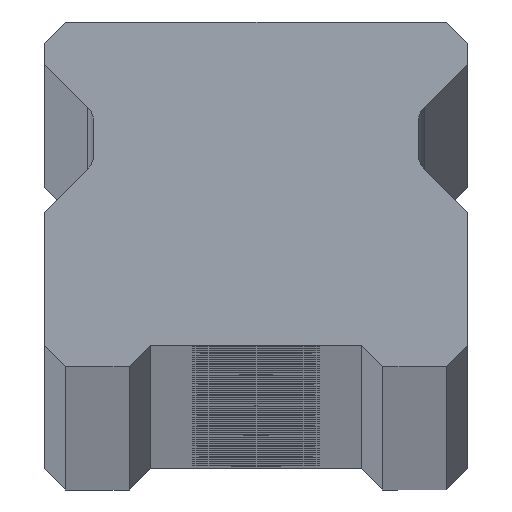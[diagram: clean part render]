
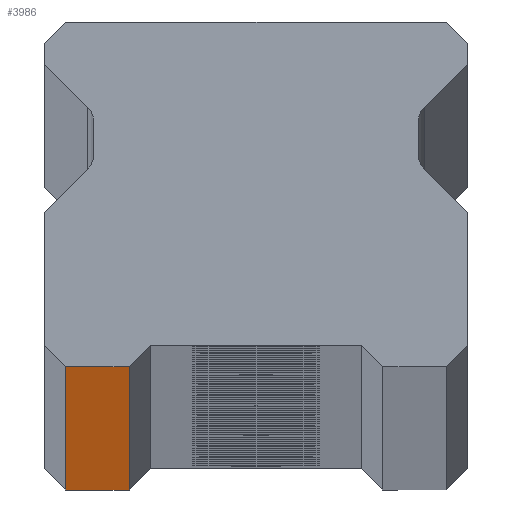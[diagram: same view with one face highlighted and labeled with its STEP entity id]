
A CAD part, top view. The second image highlights one B-rep face of the part: STEP entity #3986.
In plain terms, the highlighted planar face has unit normal (0, -1, 0).
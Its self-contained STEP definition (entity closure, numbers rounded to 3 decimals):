
#626 = CARTESIAN_POINT ( 'NONE',  ( -6., 0., -1670. ) ) ;
#696 = EDGE_CURVE ( 'NONE', #954, #2394, #7492, .T. ) ;
#954 = VERTEX_POINT ( 'NONE', #8758 ) ;
#956 = DIRECTION ( 'NONE',  ( 1., 0., 0. ) ) ;
#1045 = LINE ( 'NONE', #7256, #1956 ) ;
#1078 = PLANE ( 'NONE',  #8911 ) ;
#1226 = CARTESIAN_POINT ( 'NONE',  ( -9., 0., 1670. ) ) ;
#1250 = EDGE_LOOP ( 'NONE', ( #2447, #8393, #9165, #2674 ) ) ;
#1650 = LINE ( 'NONE', #9126, #9149 ) ;
#1956 = VECTOR ( 'NONE', #7926, 1000. ) ;
#2394 = VERTEX_POINT ( 'NONE', #5621 ) ;
#2447 = ORIENTED_EDGE ( 'NONE', *, *, #3106, .T. ) ;
#2674 = ORIENTED_EDGE ( 'NONE', *, *, #4540, .T. ) ;
#3106 = EDGE_CURVE ( 'NONE', #8395, #954, #1045, .T. ) ;
#3986 = ADVANCED_FACE ( 'NONE', ( #9296 ), #1078, .F. ) ;
#4020 = CARTESIAN_POINT ( 'NONE',  ( -9., 0., -1670. ) ) ;
#4065 = CARTESIAN_POINT ( 'NONE',  ( 10., 0., 1670. ) ) ;
#4296 = CARTESIAN_POINT ( 'NONE',  ( -9., 0., 1670. ) ) ;
#4540 = EDGE_CURVE ( 'NONE', #4793, #8395, #9512, .T. ) ;
#4790 = DIRECTION ( 'NONE',  ( 0., 1., 0. ) ) ;
#4793 = VERTEX_POINT ( 'NONE', #4296 ) ;
#5621 = CARTESIAN_POINT ( 'NONE',  ( -6., 0., 1670. ) ) ;
#6383 = DIRECTION ( 'NONE',  ( 0., 0., -1. ) ) ;
#6630 = EDGE_CURVE ( 'NONE', #4793, #2394, #1650, .T. ) ;
#7182 = DIRECTION ( 'NONE',  ( 0., 0., 1. ) ) ;
#7256 = CARTESIAN_POINT ( 'NONE',  ( 10., 0., -1670. ) ) ;
#7492 = LINE ( 'NONE', #626, #7616 ) ;
#7616 = VECTOR ( 'NONE', #7182, 1000. ) ;
#7926 = DIRECTION ( 'NONE',  ( 1., 0., 0. ) ) ;
#8393 = ORIENTED_EDGE ( 'NONE', *, *, #696, .T. ) ;
#8395 = VERTEX_POINT ( 'NONE', #4020 ) ;
#8443 = DIRECTION ( 'NONE',  ( -1., 0., 0. ) ) ;
#8758 = CARTESIAN_POINT ( 'NONE',  ( -6., 0., -1670. ) ) ;
#8911 = AXIS2_PLACEMENT_3D ( 'NONE', #4065, #4790, #8443 ) ;
#9126 = CARTESIAN_POINT ( 'NONE',  ( 10., 0., 1670. ) ) ;
#9149 = VECTOR ( 'NONE', #956, 1000. ) ;
#9165 = ORIENTED_EDGE ( 'NONE', *, *, #6630, .F. ) ;
#9296 = FACE_OUTER_BOUND ( 'NONE', #1250, .T. ) ;
#9401 = VECTOR ( 'NONE', #6383, 1000. ) ;
#9512 = LINE ( 'NONE', #1226, #9401 ) ;
